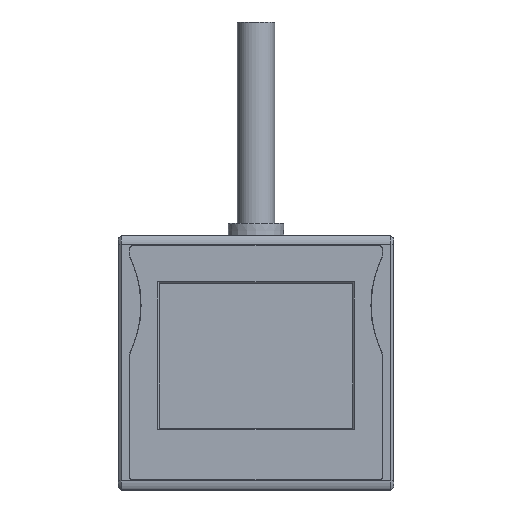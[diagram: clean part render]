
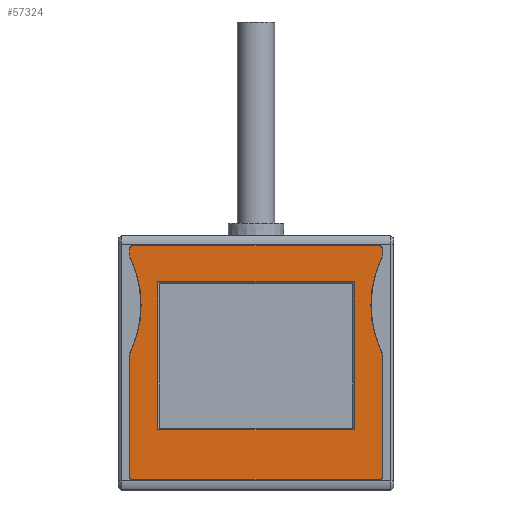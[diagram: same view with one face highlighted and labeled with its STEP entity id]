
A CAD part, top view. The second image highlights one B-rep face of the part: STEP entity #57324.
In plain terms, the highlighted planar face has unit normal (0, 0, 1).
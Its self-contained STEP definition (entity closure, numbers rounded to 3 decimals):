
#56878=CARTESIAN_POINT('',(-15.1,283.6,27.3));
#56879=VERTEX_POINT('',#56878);
#56880=CARTESIAN_POINT('',(-11.5,287.2,27.3));
#56881=VERTEX_POINT('',#56880);
#56882=CARTESIAN_POINT('',(-11.5,283.6,27.3));
#56883=DIRECTION('',(0.0,0.0,-1.0));
#56884=DIRECTION('',(0.0,-1.0,0.0));
#56885=AXIS2_PLACEMENT_3D('',#56882,#56883,#56884);
#56886=CIRCLE('',#56885,3.6);
#56887=EDGE_CURVE('',#56879,#56881,#56886,.T.);
#56910=CARTESIAN_POINT('',(-15.1,276.298,27.3));
#56911=VERTEX_POINT('',#56910);
#56912=CARTESIAN_POINT('',(-15.1,276.298,27.3));
#56913=DIRECTION('',(0.0,1.0,0.0));
#56914=VECTOR('',#56913,7.302);
#56915=LINE('',#56912,#56914);
#56916=EDGE_CURVE('',#56911,#56879,#56915,.T.);
#56934=CARTESIAN_POINT('',(-13.954,271.204,27.3));
#56935=VERTEX_POINT('',#56934);
#56936=CARTESIAN_POINT('',(-3.2,276.298,27.3));
#56937=DIRECTION('',(0.0,0.0,-1.0));
#56938=DIRECTION('',(1.0,0.0,0.0));
#56939=AXIS2_PLACEMENT_3D('',#56936,#56937,#56938);
#56940=CIRCLE('',#56939,11.9);
#56941=EDGE_CURVE('',#56935,#56911,#56940,.T.);
#56959=CARTESIAN_POINT('',(-13.954,151.332,27.3));
#56960=VERTEX_POINT('',#56959);
#56961=CARTESIAN_POINT('',(-140.476,211.268,27.3));
#56962=DIRECTION('',(0.0,0.0,1.));
#56963=DIRECTION('',(0.904,-0.428,0.0));
#56964=AXIS2_PLACEMENT_3D('',#56961,#56962,#56963);
#56965=CIRCLE('',#56964,140.);
#56966=EDGE_CURVE('',#56960,#56935,#56965,.T.);
#56984=CARTESIAN_POINT('',(-15.1,146.238,27.3));
#56985=VERTEX_POINT('',#56984);
#56986=CARTESIAN_POINT('',(-3.2,146.238,27.3));
#56987=DIRECTION('',(0.0,0.0,-1.0));
#56988=DIRECTION('',(0.904,-0.428,0.0));
#56989=AXIS2_PLACEMENT_3D('',#56986,#56987,#56988);
#56990=CIRCLE('',#56989,11.9);
#56991=EDGE_CURVE('',#56985,#56960,#56990,.T.);
#57009=CARTESIAN_POINT('',(-15.1,-9.3,27.3));
#57010=VERTEX_POINT('',#57009);
#57011=CARTESIAN_POINT('',(-15.1,-9.3,27.3));
#57012=DIRECTION('',(0.0,1.0,0.0));
#57013=VECTOR('',#57012,155.538);
#57014=LINE('',#57011,#57013);
#57015=EDGE_CURVE('',#57010,#56985,#57014,.T.);
#57033=CARTESIAN_POINT('',(-11.5,-12.9,27.3));
#57034=VERTEX_POINT('',#57033);
#57035=CARTESIAN_POINT('',(-11.5,-9.3,27.3));
#57036=DIRECTION('',(0.0,0.0,-1.0));
#57037=DIRECTION('',(1.0,0.0,0.0));
#57038=AXIS2_PLACEMENT_3D('',#57035,#57036,#57037);
#57039=CIRCLE('',#57038,3.6);
#57040=EDGE_CURVE('',#57034,#57010,#57039,.T.);
#57058=CARTESIAN_POINT('',(305.3,-12.9,27.3));
#57059=VERTEX_POINT('',#57058);
#57060=CARTESIAN_POINT('',(305.3,-12.9,27.3));
#57061=DIRECTION('',(-1.0,0.0,0.0));
#57062=VECTOR('',#57061,316.8);
#57063=LINE('',#57060,#57062);
#57064=EDGE_CURVE('',#57059,#57034,#57063,.T.);
#57082=CARTESIAN_POINT('',(308.9,-9.3,27.3));
#57083=VERTEX_POINT('',#57082);
#57084=CARTESIAN_POINT('',(305.3,-9.3,27.3));
#57085=DIRECTION('',(0.0,0.0,-1.0));
#57086=DIRECTION('',(0.0,1.0,0.0));
#57087=AXIS2_PLACEMENT_3D('',#57084,#57085,#57086);
#57088=CIRCLE('',#57087,3.6);
#57089=EDGE_CURVE('',#57083,#57059,#57088,.T.);
#57107=CARTESIAN_POINT('',(308.9,146.238,27.3));
#57108=VERTEX_POINT('',#57107);
#57109=CARTESIAN_POINT('',(308.9,146.238,27.3));
#57110=DIRECTION('',(0.0,-1.0,0.0));
#57111=VECTOR('',#57110,155.538);
#57112=LINE('',#57109,#57111);
#57113=EDGE_CURVE('',#57108,#57083,#57112,.T.);
#57131=CARTESIAN_POINT('',(307.754,151.332,27.3));
#57132=VERTEX_POINT('',#57131);
#57133=CARTESIAN_POINT('',(297.,146.238,27.3));
#57134=DIRECTION('',(0.0,0.0,-1.0));
#57135=DIRECTION('',(-1.0,0.0,0.0));
#57136=AXIS2_PLACEMENT_3D('',#57133,#57134,#57135);
#57137=CIRCLE('',#57136,11.9);
#57138=EDGE_CURVE('',#57132,#57108,#57137,.T.);
#57156=CARTESIAN_POINT('',(307.754,271.204,27.3));
#57157=VERTEX_POINT('',#57156);
#57158=CARTESIAN_POINT('',(434.276,211.268,27.3));
#57159=DIRECTION('',(0.0,0.0,1.));
#57160=DIRECTION('',(-0.904,0.428,0.0));
#57161=AXIS2_PLACEMENT_3D('',#57158,#57159,#57160);
#57162=CIRCLE('',#57161,140.);
#57163=EDGE_CURVE('',#57157,#57132,#57162,.T.);
#57181=CARTESIAN_POINT('',(308.9,276.298,27.3));
#57182=VERTEX_POINT('',#57181);
#57183=CARTESIAN_POINT('',(297.,276.298,27.3));
#57184=DIRECTION('',(0.0,0.0,-1.0));
#57185=DIRECTION('',(-0.904,0.428,0.0));
#57186=AXIS2_PLACEMENT_3D('',#57183,#57184,#57185);
#57187=CIRCLE('',#57186,11.9);
#57188=EDGE_CURVE('',#57182,#57157,#57187,.T.);
#57206=CARTESIAN_POINT('',(308.9,283.6,27.3));
#57207=VERTEX_POINT('',#57206);
#57208=CARTESIAN_POINT('',(308.9,283.6,27.3));
#57209=DIRECTION('',(0.0,-1.0,0.0));
#57210=VECTOR('',#57209,7.302);
#57211=LINE('',#57208,#57210);
#57212=EDGE_CURVE('',#57207,#57182,#57211,.T.);
#57230=CARTESIAN_POINT('',(305.3,287.2,27.3));
#57231=VERTEX_POINT('',#57230);
#57232=CARTESIAN_POINT('',(305.3,283.6,27.3));
#57233=DIRECTION('',(0.0,0.0,-1.0));
#57234=DIRECTION('',(-1.0,0.0,0.0));
#57235=AXIS2_PLACEMENT_3D('',#57232,#57233,#57234);
#57236=CIRCLE('',#57235,3.6);
#57237=EDGE_CURVE('',#57231,#57207,#57236,.T.);
#57255=CARTESIAN_POINT('',(-11.5,287.2,27.3));
#57256=DIRECTION('',(1.0,0.0,0.0));
#57257=VECTOR('',#57256,316.8);
#57258=LINE('',#57255,#57257);
#57259=EDGE_CURVE('',#56881,#57231,#57258,.T.);
#57267=CARTESIAN_POINT('',(146.9,137.665,27.3));
#57268=DIRECTION('',(0.0,0.0,1.0));
#57269=DIRECTION('',(1.0,0.0,0.0));
#57270=AXIS2_PLACEMENT_3D('',#57267,#57268,#57269);
#57271=PLANE('',#57270);
#57272=ORIENTED_EDGE('',*,*,#57259,.F.);
#57273=ORIENTED_EDGE('',*,*,#56887,.F.);
#57274=ORIENTED_EDGE('',*,*,#56916,.F.);
#57275=ORIENTED_EDGE('',*,*,#56941,.F.);
#57276=ORIENTED_EDGE('',*,*,#56966,.F.);
#57277=ORIENTED_EDGE('',*,*,#56991,.F.);
#57278=ORIENTED_EDGE('',*,*,#57015,.F.);
#57279=ORIENTED_EDGE('',*,*,#57040,.F.);
#57280=ORIENTED_EDGE('',*,*,#57064,.F.);
#57281=ORIENTED_EDGE('',*,*,#57089,.F.);
#57282=ORIENTED_EDGE('',*,*,#57113,.F.);
#57283=ORIENTED_EDGE('',*,*,#57138,.F.);
#57284=ORIENTED_EDGE('',*,*,#57163,.F.);
#57285=ORIENTED_EDGE('',*,*,#57188,.F.);
#57286=ORIENTED_EDGE('',*,*,#57212,.F.);
#57287=ORIENTED_EDGE('',*,*,#57237,.F.);
#57288=EDGE_LOOP('',(#57272,#57273,#57274,#57275,#57276,#57277,#57278,#57279,#57280,#57281,#57282,#57283,#57284,#57285,#57286,#57287));
#57289=FACE_OUTER_BOUND('',#57288,.T.);
#57290=CARTESIAN_POINT('',(21.1,240.9,27.3));
#57291=VERTEX_POINT('',#57290);
#57292=CARTESIAN_POINT('',(21.1,51.3,27.3));
#57293=VERTEX_POINT('',#57292);
#57294=CARTESIAN_POINT('',(21.1,240.9,27.3));
#57295=DIRECTION('',(0.0,-1.0,0.0));
#57296=VECTOR('',#57295,189.6);
#57297=LINE('',#57294,#57296);
#57298=EDGE_CURVE('',#57291,#57293,#57297,.T.);
#57299=ORIENTED_EDGE('',*,*,#57298,.F.);
#57300=CARTESIAN_POINT('',(272.7,240.9,27.3));
#57301=VERTEX_POINT('',#57300);
#57302=CARTESIAN_POINT('',(272.7,240.9,27.3));
#57303=DIRECTION('',(-1.0,0.0,0.0));
#57304=VECTOR('',#57303,251.6);
#57305=LINE('',#57302,#57304);
#57306=EDGE_CURVE('',#57301,#57291,#57305,.T.);
#57307=ORIENTED_EDGE('',*,*,#57306,.F.);
#57308=CARTESIAN_POINT('',(272.7,51.3,27.3));
#57309=VERTEX_POINT('',#57308);
#57310=CARTESIAN_POINT('',(272.7,51.3,27.3));
#57311=DIRECTION('',(0.0,1.0,0.0));
#57312=VECTOR('',#57311,189.6);
#57313=LINE('',#57310,#57312);
#57314=EDGE_CURVE('',#57309,#57301,#57313,.T.);
#57315=ORIENTED_EDGE('',*,*,#57314,.F.);
#57316=CARTESIAN_POINT('',(21.1,51.3,27.3));
#57317=DIRECTION('',(1.0,0.0,0.0));
#57318=VECTOR('',#57317,251.6);
#57319=LINE('',#57316,#57318);
#57320=EDGE_CURVE('',#57293,#57309,#57319,.T.);
#57321=ORIENTED_EDGE('',*,*,#57320,.F.);
#57322=EDGE_LOOP('',(#57299,#57307,#57315,#57321));
#57323=FACE_BOUND('',#57322,.T.);
#57324=ADVANCED_FACE('',(#57289,#57323),#57271,.T.);
